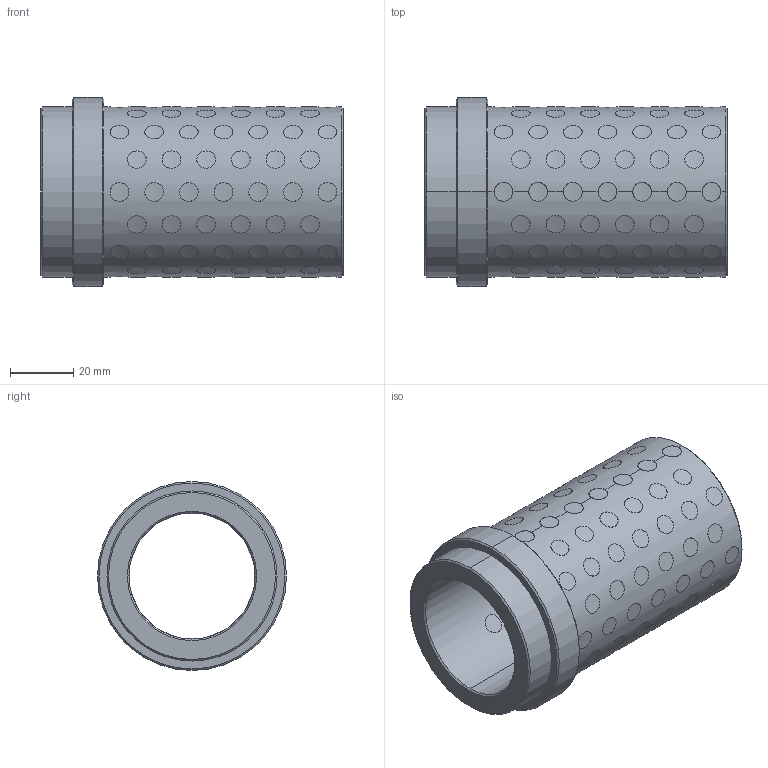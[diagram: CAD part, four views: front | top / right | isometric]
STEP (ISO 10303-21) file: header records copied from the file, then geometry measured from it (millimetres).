
FILE_DESCRIPTION((''),'2;1');
FILE_NAME('G31240086','2017-12-31T',('MANU'),(''),'PRO/ENGINEER BY PARAMETRIC TECHNOLOGY CORPORATION, 2012130','PRO/ENGINEER BY PARAMETRIC TECHNOLOGY CORPORATION, 2012130','');
FILE_SCHEMA(('CONFIG_CONTROL_DESIGN'));
Length unit declared in the file: millimetre
Products named in the file (1): G31240086
Bounding box: 96 x 60 x 60 mm (x, y, z)
Volume: 104132.4 mm3; surface area: 58742.3 mm2
Topology: 105 solids, 105 shells, 648 faces, 1380 edges, 916 vertices
Faces by surface type: cylinder 632, cone 12, plane 4
Entity records: 33224 total; most frequent: CARTESIAN_POINT 20618, ORIENTED_EDGE 2760, DIRECTION 1816, EDGE_CURVE 1380, VERTEX_POINT 916, B_SPLINE_CURVE_WITH_KNOTS 888, EDGE_LOOP 832, AXIS2_PLACEMENT_3D 676
